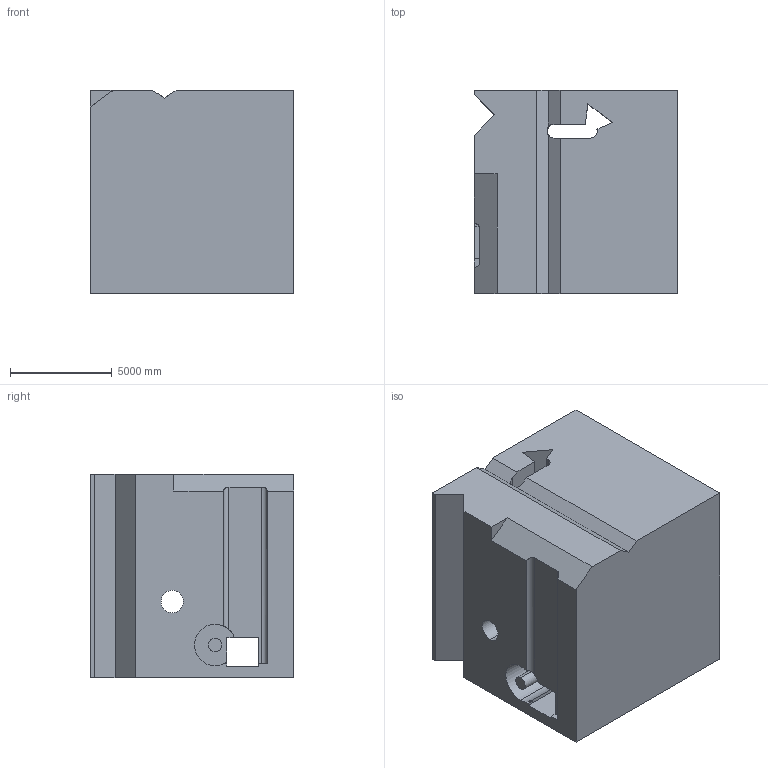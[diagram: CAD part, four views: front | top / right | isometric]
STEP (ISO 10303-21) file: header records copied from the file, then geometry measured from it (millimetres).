
FILE_DESCRIPTION (( 'STEP AP203' ), '1' );
FILE_NAME ('193.STEP', '2022-09-06T15:28:33', ( 'user' ), ( '' ), 'SwSTEP 2.0', 'SolidWorks 2021', '' );
FILE_SCHEMA (( 'CONFIG_CONTROL_DESIGN' ));
Length unit declared in the file: centimetre
Products named in the file (1): 193
Bounding box: 10000 x 10000 x 10000 mm (x, y, z)
Volume: 906760306623.6 mm3; surface area: 798222070 mm2
Topology: 1 solids, 1 shells, 44 faces, 129 edges, 86 vertices
Faces by surface type: plane 31, cylinder 13
Entity records: 1616 total; most frequent: CARTESIAN_POINT 351, ORIENTED_EDGE 258, DIRECTION 234, EDGE_CURVE 129, VECTOR 100, LINE 100, VERTEX_POINT 86, AXIS2_PLACEMENT_3D 67
